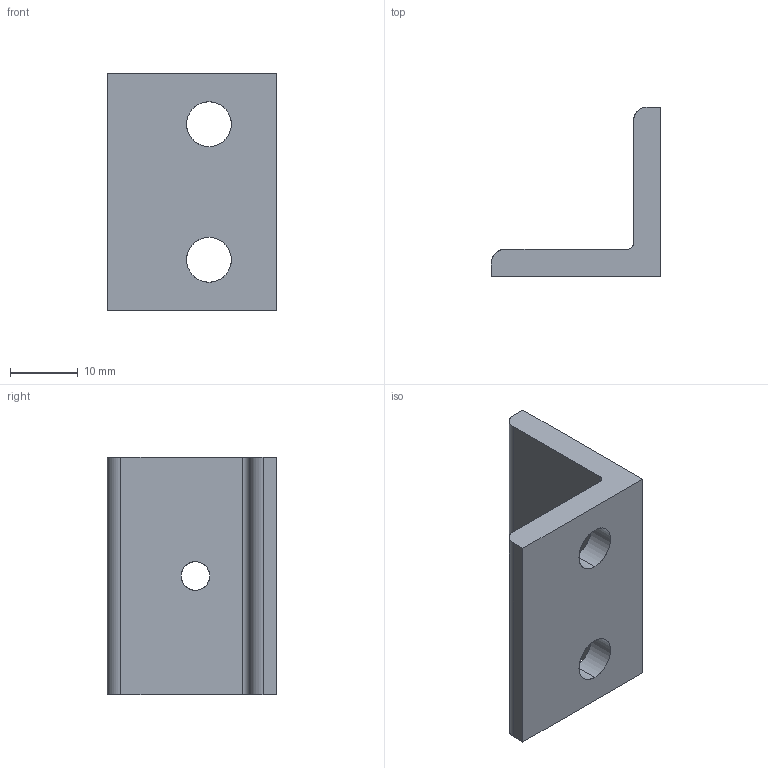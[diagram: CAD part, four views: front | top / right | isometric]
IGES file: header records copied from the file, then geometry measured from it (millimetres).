
Start section: SolidWorks IGES file using analytic representation for surfaces
Global section: file name: C:\Documents and Settings\Administrator\デスクトップ\指定保存後3回目\SolidWorks\SF\SF30\Parts\SFJ-K02.IGS; native system: SolidWorks 2006 by SolidWorks Corporation; preprocessor: SolidWorks 2006 by SolidWorks Corporation; author: Administrator; date: 061213.105842; units: millimetre
Bounding box: 25 x 25 x 35 mm (x, y, z)
Surface area: 3844 mm2 (no closed solid volume)
Topology: 0 solids, 0 shells, 17 faces, 357 edges, 402 vertices
Faces by surface type: revolution 9, bspline 8
